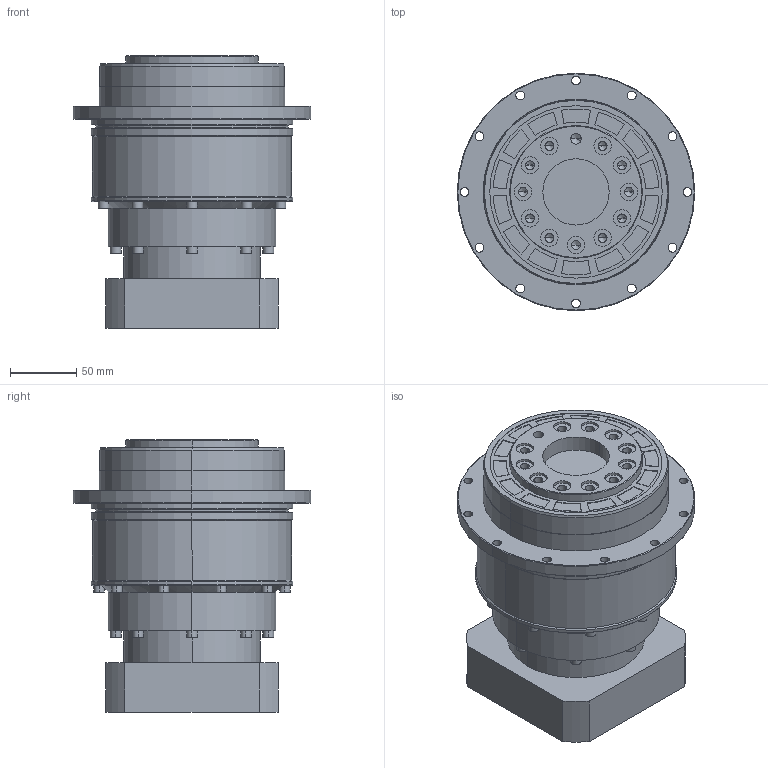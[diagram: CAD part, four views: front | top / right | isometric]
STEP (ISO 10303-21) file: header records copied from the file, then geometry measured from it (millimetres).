
FILE_DESCRIPTION (( 'STEP AP203' ), '1' );
FILE_NAME ('FAD140 - L2-22-110-145-M8.STEP', '2017-04-06T08:37:45', ( 'User' ), ( 'Microsoft' ), 'SwSTEP 2.0', 'SolidWorks 2014', '' );
FILE_SCHEMA (( 'CONFIG_CONTROL_DESIGN' ));
Length unit declared in the file: millimetre
Products named in the file (1): FAD140 - L2-22-110-145-M8
Bounding box: 179 x 179 x 205.5 mm (x, y, z)
Volume: 2893415 mm3; surface area: 202068 mm2
Topology: 1 solids, 1 shells, 555 faces, 1366 edges, 882 vertices
Faces by surface type: plane 281, cylinder 208, cone 60, torus 6
Entity records: 16705 total; most frequent: CARTESIAN_POINT 3218, DIRECTION 2872, ORIENTED_EDGE 2684, EDGE_CURVE 1342, AXIS2_PLACEMENT_3D 1042, VERTEX_POINT 882, LINE 788, VECTOR 788
